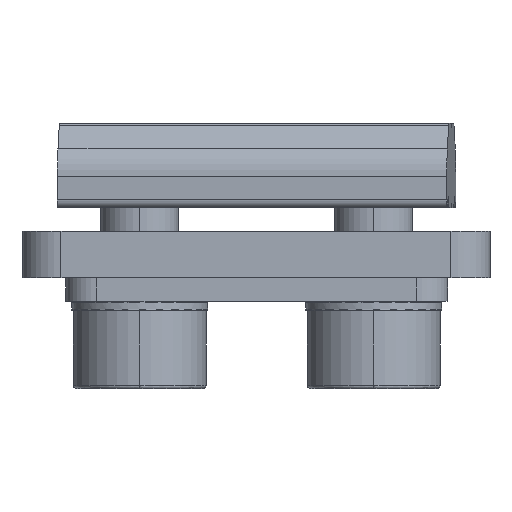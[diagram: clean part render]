
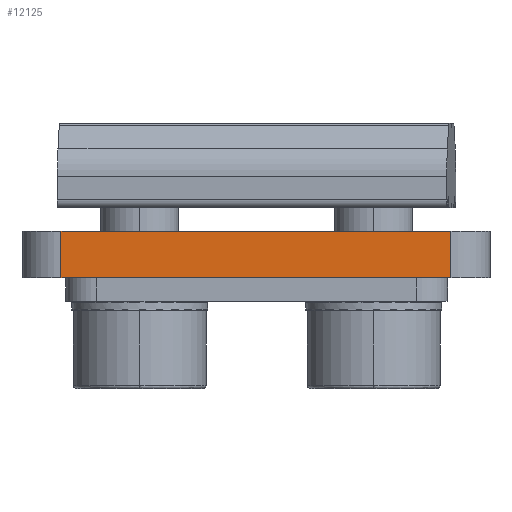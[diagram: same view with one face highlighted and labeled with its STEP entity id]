
A CAD part, front view. The second image highlights one B-rep face of the part: STEP entity #12125.
In plain terms, the highlighted planar face has unit normal (0, -1, 0).
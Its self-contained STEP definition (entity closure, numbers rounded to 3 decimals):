
#248 = LINE ( 'NONE', #19377, #4849 ) ;
#606 = DIRECTION ( 'NONE',  ( -1., 0., 0. ) ) ;
#675 = FACE_OUTER_BOUND ( 'NONE', #12601, .T. ) ;
#1017 = EDGE_CURVE ( 'NONE', #16742, #1953, #22306, .T. ) ;
#1486 = LINE ( 'NONE', #14426, #11868 ) ;
#1835 = DIRECTION ( 'NONE',  ( -1., 0., 0. ) ) ;
#1953 = VERTEX_POINT ( 'NONE', #20302 ) ;
#2736 = DIRECTION ( 'NONE',  ( 0., 0., -1. ) ) ;
#2818 = CARTESIAN_POINT ( 'NONE',  ( -142.238, -34.108, 57.664 ) ) ;
#2940 = CARTESIAN_POINT ( 'NONE',  ( -142.238, -34.108, 59.164 ) ) ;
#4811 = AXIS2_PLACEMENT_3D ( 'NONE', #5768, #19462, #7732 ) ;
#4849 = VECTOR ( 'NONE', #1835, 1000. ) ;
#5768 = CARTESIAN_POINT ( 'NONE',  ( -142.238, -34.108, 56.164 ) ) ;
#6394 = LINE ( 'NONE', #2818, #11556 ) ;
#7732 = DIRECTION ( 'NONE',  ( 0., 0., 1. ) ) ;
#9395 = EDGE_CURVE ( 'NONE', #21069, #15797, #248, .T. ) ;
#11556 = VECTOR ( 'NONE', #14522, 1000. ) ;
#11868 = VECTOR ( 'NONE', #2736, 1000. ) ;
#12125 = ADVANCED_FACE ( 'NONE', ( #675 ), #23341, .F. ) ;
#12601 = EDGE_LOOP ( 'NONE', ( #16891, #21517, #19654, #23667 ) ) ;
#13596 = EDGE_CURVE ( 'NONE', #1953, #15797, #6394, .T. ) ;
#14098 = CARTESIAN_POINT ( 'NONE',  ( -117.238, -34.108, 56.164 ) ) ;
#14329 = CARTESIAN_POINT ( 'NONE',  ( -129.738, -34.108, 56.164 ) ) ;
#14426 = CARTESIAN_POINT ( 'NONE',  ( -117.238, -34.108, 57.664 ) ) ;
#14522 = DIRECTION ( 'NONE',  ( 0., 0., 1. ) ) ;
#15797 = VERTEX_POINT ( 'NONE', #2940 ) ;
#16742 = VERTEX_POINT ( 'NONE', #14098 ) ;
#16782 = EDGE_CURVE ( 'NONE', #21069, #16742, #1486, .T. ) ;
#16891 = ORIENTED_EDGE ( 'NONE', *, *, #9395, .T. ) ;
#17076 = VECTOR ( 'NONE', #606, 1000. ) ;
#19377 = CARTESIAN_POINT ( 'NONE',  ( -129.738, -34.108, 59.164 ) ) ;
#19462 = DIRECTION ( 'NONE',  ( 0., 1., 0. ) ) ;
#19654 = ORIENTED_EDGE ( 'NONE', *, *, #1017, .F. ) ;
#20302 = CARTESIAN_POINT ( 'NONE',  ( -142.238, -34.108, 56.164 ) ) ;
#21069 = VERTEX_POINT ( 'NONE', #21144 ) ;
#21144 = CARTESIAN_POINT ( 'NONE',  ( -117.238, -34.108, 59.164 ) ) ;
#21517 = ORIENTED_EDGE ( 'NONE', *, *, #13596, .F. ) ;
#22306 = LINE ( 'NONE', #14329, #17076 ) ;
#23341 = PLANE ( 'NONE',  #4811 ) ;
#23667 = ORIENTED_EDGE ( 'NONE', *, *, #16782, .F. ) ;
